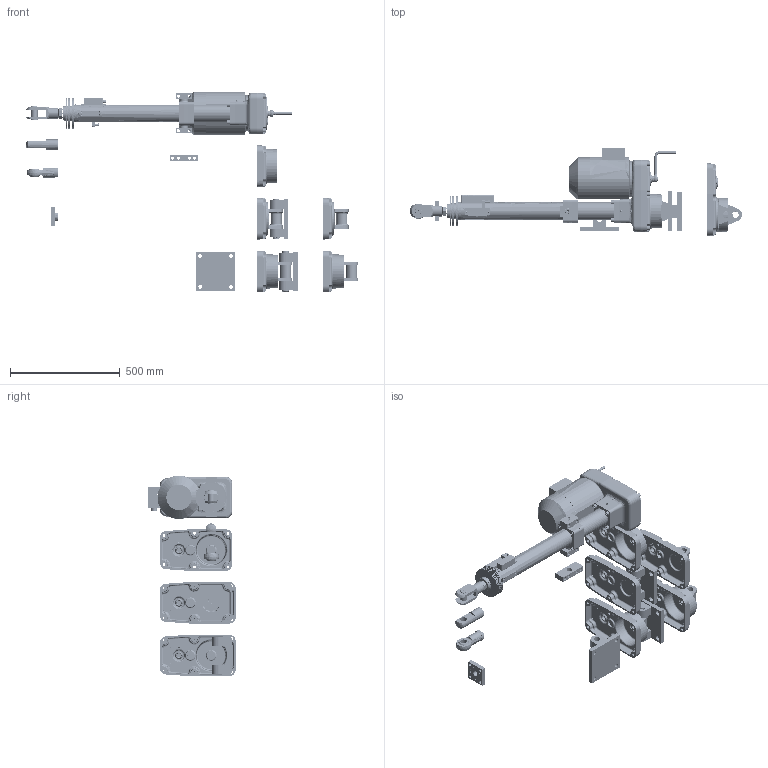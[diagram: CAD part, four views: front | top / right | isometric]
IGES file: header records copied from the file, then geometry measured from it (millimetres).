
Start section: SolidWorks IGES file using analytic representation for surfaces
Global section: file name: D:\ÂÍÓÊÎÂ ÂÑ\ÑÌ\Ñàéò\ÌÝÏ-Ñ3\Êîìïàñ 3D AutoCAD\Êîìïàñ 3D AutoCAD\ÌÝÏ Ñ3 500.IGS; native system: SolidWorks 2012; preprocessor: SolidWorks 2012; author: âíóêîâ; date: 141211.134145; units: millimetre
Bounding box: 1513 x 398.42 x 914 mm (x, y, z)
Surface area: 3124182.9 mm2 (no closed solid volume)
Topology: 0 solids, 0 shells, 4372 faces, 80346 edges, 80201 vertices
Faces by surface type: bspline 2257, revolution 2115
